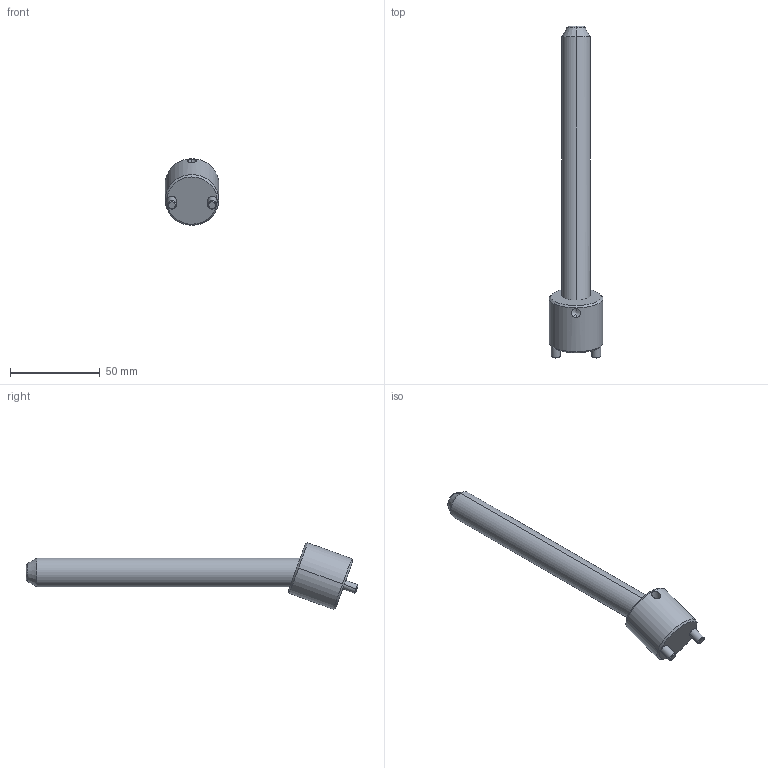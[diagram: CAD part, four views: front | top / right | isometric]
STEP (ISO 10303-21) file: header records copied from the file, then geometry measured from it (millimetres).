
FILE_DESCRIPTION(('CATIA V5 STEP Exchange'),'2;1');
FILE_NAME('C:\Users\Raffaele\Desktop\3D BOLEX\3D FILES CF BOLEX\19-INCLINED ASSEMBLY REF_CI\CI2016150.stp','2019-06-24T06:41:13+00:00',('none'),('none'),'CATIA Version 5 Release 20 GA (IN-10)','CATIA V5 STEP AP203','none');
FILE_SCHEMA(('CONFIG_CONTROL_DESIGN'));
Length unit declared in the file: millimetre
Products named in the file (1): CI2016150
Assembly tree (2 placements, depth 2):
  CI2016150
    #58
    #587
Bounding box: 30 x 185.07 x 37.08 mm (x, y, z)
Volume: 49417.9 mm3; surface area: 14462.3 mm2
Topology: 2 solids, 2 shells, 39 faces, 82 edges, 47 vertices
Faces by surface type: cone 14, cylinder 14, plane 7, torus 4
Entity records: 1488 total; most frequent: CARTESIAN_POINT 629, ORIENTED_EDGE 160, DIRECTION 145, EDGE_CURVE 80, AXIS2_PLACEMENT_3D 72, VERTEX_POINT 47, EDGE_LOOP 43, ADVANCED_FACE 39
